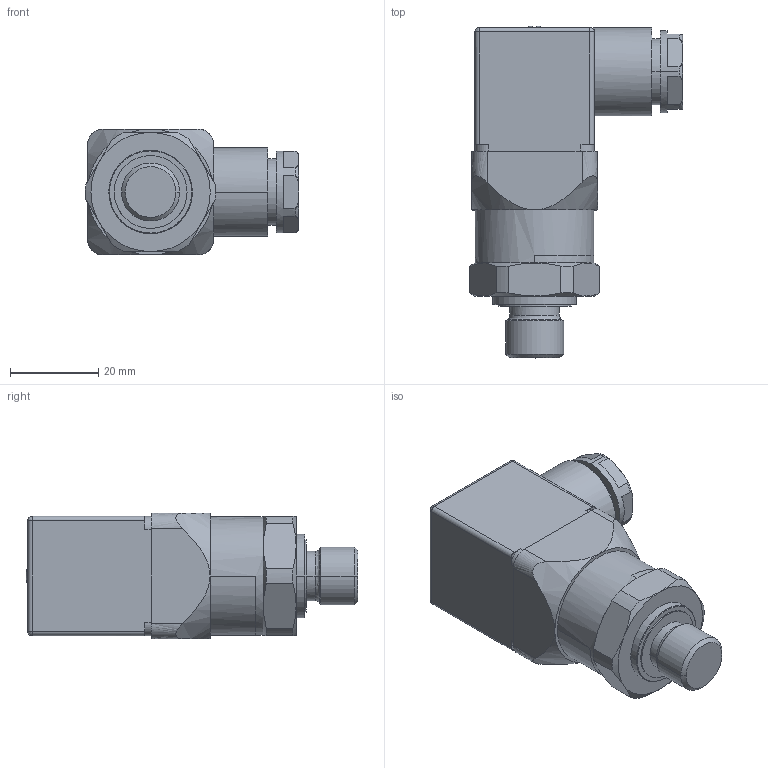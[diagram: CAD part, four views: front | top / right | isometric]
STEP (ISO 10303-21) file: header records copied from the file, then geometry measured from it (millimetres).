
FILE_DESCRIPTION(/* description */ ('Eriks item no: 12159922'),/* implementation_level */ '2;1');
FILE_NAME(/* name */ 'L:\DATA\ENG\Inventor\Econ 3D modellen\manometers & thermometers\30029\30029-A10 _ 0 - 10 bar.stp',/* time_stamp */ '2022-03-10T08:27:33+01:00',/* author */ ('roger.thijssen'),/* organization */ (''),/* preprocessor_version */ 'ST-DEVELOPER v18',/* originating_system */ 'Autodesk Inventor 2020',/* authorisation */ '');
FILE_SCHEMA (('AUTOMOTIVE_DESIGN { 1 0 10303 214 3 1 1 }'));
Length unit declared in the file: millimetre
Products named in the file (1): Pressure transmitter, 30029-A10 _ 0 - 10 bar
Bounding box: 48.25 x 75.15 x 28.5 mm (x, y, z)
Volume: 49820.7 mm3; surface area: 9571.1 mm2
Topology: 1 solids, 1 shells, 114 faces, 276 edges, 173 vertices
Faces by surface type: bspline 60, plane 48, cylinder 6
Entity records: 9899 total; most frequent: CARTESIAN_POINT 7498, ORIENTED_EDGE 552, EDGE_CURVE 276, DIRECTION 273, VERTEX_POINT 173, B_SPLINE_CURVE_WITH_KNOTS 139, EDGE_LOOP 123, FACE_OUTER_BOUND 114
